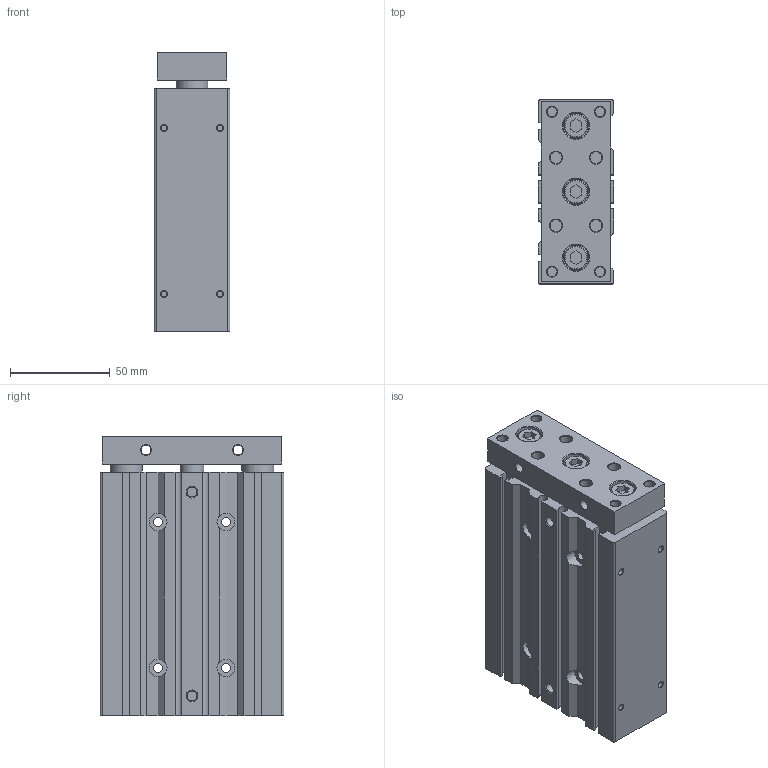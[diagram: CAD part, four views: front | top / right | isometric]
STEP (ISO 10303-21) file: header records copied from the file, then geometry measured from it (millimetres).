
FILE_DESCRIPTION((''),'2;1');
FILE_NAME('I:\3D電子目錄\氣缸\TB(U)\TB(U)25\TB(U)25\TB(U)25x75.stp','2007-08-06T08:23:45',('Administrator'),(''),'Autodesk Inventor 2008','Autodesk Inventor 2008','');
FILE_SCHEMA(('AUTOMOTIVE_DESIGN { 1 0 10303 214 1 1 1 1 }'));
Length unit declared in the file: millimetre
Products named in the file (1): TB(U)25X75
Bounding box: 38 x 92 x 140 mm (x, y, z)
Volume: 430385.2 mm3; surface area: 65642.6 mm2
Topology: 1 solids, 1 shells, 214 faces, 500 edges, 318 vertices
Faces by surface type: plane 104, cylinder 48, cone 39, bspline 20, torus 3
Full cylindrical faces by diameter (mm): 3 x4, 4.4 x4, 5 x6, 6 x8, 9 x4, 12 x4, 13 x3, 16 x4, 21 x2, 28 x1
Entity records: 5814 total; most frequent: CARTESIAN_POINT 1133, DIRECTION 968, ORIENTED_EDGE 808, EDGE_CURVE 404, AXIS2_PLACEMENT_3D 369, EDGE_LOOP 368, VERTEX_POINT 314, VECTOR 230
